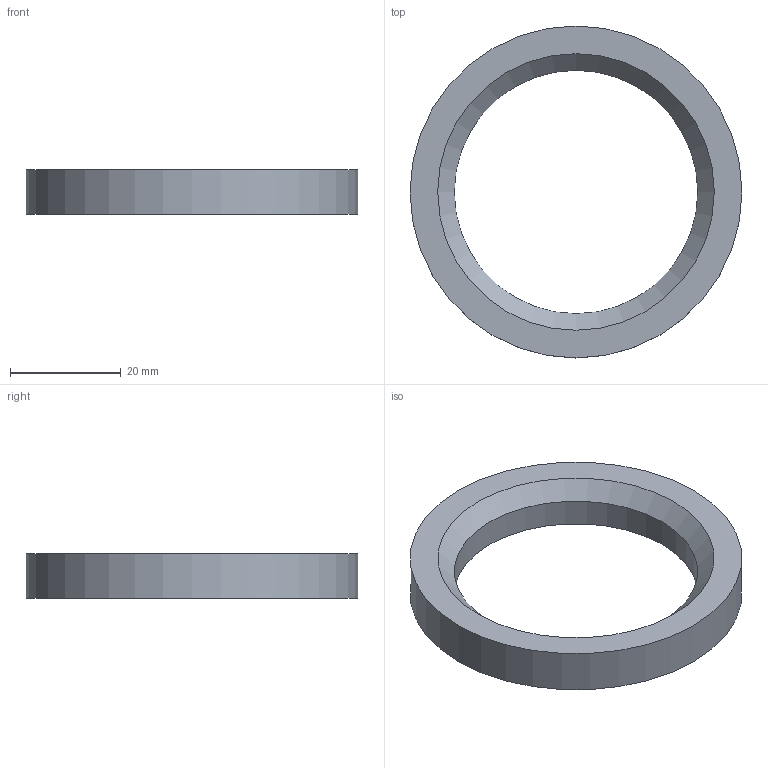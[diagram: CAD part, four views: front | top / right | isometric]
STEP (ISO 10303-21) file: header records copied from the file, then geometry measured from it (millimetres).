
FILE_DESCRIPTION(('Open CASCADE Model'),'2;1');
FILE_NAME('Open CASCADE Shape Model','2026-10-21T17:23:51',('Author'),( 'Open CASCADE'),'Open CASCADE STEP processor 7.9','Open CASCADE 7.9' ,'Unknown');
FILE_SCHEMA(('AUTOMOTIVE_DESIGN { 1 0 10303 214 1 1 1 1 }'));
Length unit declared in the file: millimetre
Products named in the file (1): Open CASCADE STEP translator 7.9 39
Bounding box: 60 x 60 x 8 mm (x, y, z)
Volume: 9804.9 mm3; surface area: 4996.4 mm2
Topology: 1 solids, 1 shells, 5 faces, 8 edges, 5 vertices
Faces by surface type: cylinder 2, plane 2, cone 1
Full cylindrical faces by diameter (mm): 44 x1, 60 x1
Entity records: 240 total; most frequent: CARTESIAN_POINT 41, DIRECTION 40, ORIENTED_EDGE 16, PCURVE 16, DEFINITIONAL_REPRESENTATION 16, LINE 15, VECTOR 15, AXIS2_PLACEMENT_3D 11
